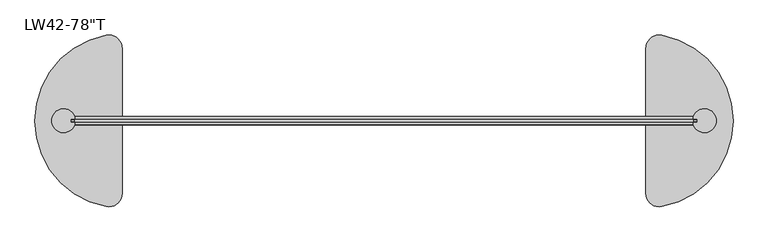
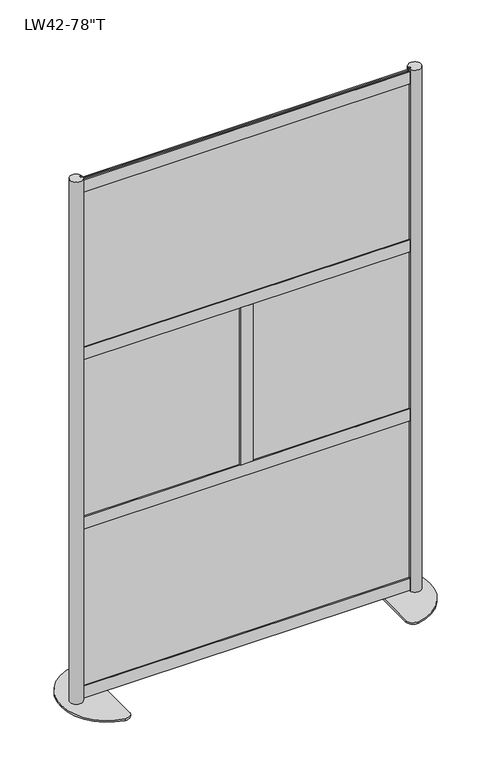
"""IFC4 building model written with IfcOpenShell, lengths in millimetres: furniture geometry."""

from ifc_helpers import new_model, si_unit, point, frame, frame_2d, origin, origin_with_axes, place, context, project, spatial, polyline, circle_curve, trimmed, segment, composite_curve, outline, extrude, source, transform, mapped, element, save


def furniture_009af1f4(model_context):
    return source(origin(), model_context, "Body", "SweptSolid", [
        extrude(outline(polyline([(594.51875, -1.5875), (-594.51875, -1.5875), (-594.51875, 1.5875), (594.51875, 1.5875), (594.51875, -1.5875)])), frame((0.0, 0.0, 1324.2670292), z_axis=(0.0, 0.0, 1.0), x_axis=(1.0, 0.0, 0.0)), (0.0, 0.0, 1.0), 608.965),
        extrude(outline(polyline([(594.51875, -1.5875), (-594.51875, -1.5875), (-594.51875, 1.5875), (594.51875, 1.5875), (594.51875, -1.5875)])), frame((0.0, 0.0, 49.2633), z_axis=(0.0, 0.0, 1.0), x_axis=(1.0, 0.0, 0.0)), (0.0, 0.0, 1.0), 608.965),
        extrude(outline(polyline([(592.9137189, 1.5875), (592.9138926, -1.5875), (15.0638917, -1.5875), (15.063718, 1.5875), (592.9137189, 1.5875)])), frame((0.0, 0.0, 689.2671), z_axis=(0.0, 0.0, 1.0), x_axis=(1.0, 0.0, 0.0)), (0.0, 0.0, 1.0), 608.965),
        extrude(outline(polyline([(-592.9137189, 1.5875), (-15.063718, 1.5875), (-15.0638917, -1.5875), (-592.9138926, -1.5875), (-592.9137189, 1.5875)])), frame((0.0, 0.0, 689.2671), z_axis=(0.0, 0.0, 1.0), x_axis=(1.0, 0.0, 0.0)), (0.0, 0.0, 1.0), 608.965),
        extrude(outline(polyline([(-22.6314, 3.556), (-22.6314, 7.6327), (22.6314, 7.6327), (22.6314, 3.556), (15.5194, 3.556), (15.5194, -3.556), (22.6314, -3.556), (22.6314, -7.6327), (-22.6314, -7.6327), (-22.6314, -3.556), (-15.5194, -3.556), (-15.5194, 3.556), (-22.6314, 3.556)])), frame((0.0, 0.0, 696.3791), z_axis=(0.0, 0.0, 1.0), x_axis=(1.0, 0.0, 0.0)), (0.0, 0.0, 1.0), 594.741),
        extrude(outline(polyline([(3.556, 651.1163), (3.556, 658.2283), (-3.556, 658.2283), (-3.556, 651.1163), (-7.6327, 651.1163), (-7.6327, 696.3791), (-3.556, 696.3791), (-3.556, 689.2671), (3.556, 689.2671), (3.556, 696.3791), (7.6327, 696.3791), (7.6327, 651.1163), (3.556, 651.1163)])), frame((-584.9874, 0.0, 0.0), z_axis=(1.0, 0.0, 0.0), x_axis=(0.0, 1.0, 0.0)), (0.0, 0.0, 1.0), 1169.9748),
        extrude(outline(polyline([(3.556, 1291.1201), (3.556, 1298.2321), (-3.556, 1298.2321), (-3.556, 1291.1201), (-7.6327, 1291.1201), (-7.6327, 1336.3829), (-3.556, 1336.3829), (-3.556, 1329.2709), (3.556, 1329.2709), (3.556, 1336.3829), (7.6327, 1336.3829), (7.6327, 1291.1201), (3.556, 1291.1201)])), frame((-584.9874, 0.0, 0.0), z_axis=(1.0, 0.0, 0.0), x_axis=(0.0, 1.0, 0.0)), (0.0, 0.0, 1.0), 1169.9748),
        extrude(outline(polyline([(3.556, 11.1125), (3.556, 18.2245), (-3.556, 18.2245), (-3.556, 11.1125), (-7.6327, 11.1125), (-7.6327, 56.3753), (-3.556, 56.3753), (-3.556, 49.2633), (3.556, 49.2633), (3.556, 56.3753), (7.6327, 56.3753), (7.6327, 11.1125), (3.556, 11.1125)])), frame((-585.0636, 0.0, 0.0), z_axis=(1.0, 0.0, 0.0), x_axis=(0.0, 1.0, 0.0)), (0.0, 0.0, 1.0), 1170.1272),
        extrude(outline(polyline([(3.556, 1926.1200292), (3.556, 1933.2320292), (-3.556, 1933.2320292), (-3.556, 1926.1200292), (-7.6327, 1926.1200292), (-7.6327, 1971.3828292), (-3.556, 1971.3828292), (-3.556, 1964.2708292), (3.556, 1964.2708292), (3.556, 1971.3828292), (7.6327, 1971.3828292), (7.6327, 1926.1200292), (3.556, 1926.1200292)])), frame((-585.0636, 0.0, 0.0), z_axis=(1.0, 0.0, 0.0), x_axis=(0.0, 1.0, 0.0)), (0.0, 0.0, 1.0), 1170.1272),
        extrude(outline(composite_curve([segment(polyline([(585.0636, -7.7568093), (585.0636, -3.556), (592.1756, -3.556), (592.1756, 3.556), (585.0636, 3.556), (585.0636, 7.7568093)]), True, "CONTINUOUS"), segment(trimmed(circle_curve(frame_2d((606.1665837, 0.0)), 22.4834163), [point((585.0636, 7.7568093))], [point((585.0636, -7.7568093))], False, "CARTESIAN"), True, "CONTINUOUS")], self_intersect=False)), frame((0.0, 0.0, 6.35), z_axis=(0.0, 0.0, 1.0), x_axis=(1.0, 0.0, 0.0)), (0.0, 0.0, 1.0), 1974.85),
        extrude(outline(composite_curve([segment(polyline([(495.3, -137.3715036), (495.3, 137.3715036)]), True, "CONTINUOUS"), segment(trimmed(circle_curve(frame_2d((520.7, 137.3715036)), 25.4), [point((495.3, 137.3715036))], [point((525.3181818, 162.3481406))], False, "CARTESIAN"), True, "CONTINUOUS"), segment(trimmed(circle_curve(frame_2d((495.3, 0.0)), 165.1), [point((525.3181818, 162.3481406))], [point((660.4, 0.0))], False, "CARTESIAN"), True, "CONTINUOUS"), segment(trimmed(circle_curve(frame_2d((495.3, 0.0)), 165.1), [point((660.4, 0.0))], [point((525.3181818, -162.3481406))], False, "CARTESIAN"), True, "CONTINUOUS"), segment(trimmed(circle_curve(frame_2d((520.7, -137.3715036)), 25.4), [point((525.3181818, -162.3481406))], [point((495.3, -137.3715036))], False, "CARTESIAN"), True, "CONTINUOUS")], self_intersect=False)), origin_with_axes(), (0.0, 0.0, 1.0), 6.35),
        extrude(outline(composite_curve([segment(trimmed(circle_curve(frame_2d((-606.1665837, 0.0)), 22.4834163), [point((-585.0636, -7.7568093))], [point((-585.0636, 7.7568093))], False, "CARTESIAN"), True, "CONTINUOUS"), segment(polyline([(-585.0636, 7.7568093), (-585.0636, 3.556), (-592.1756, 3.556), (-592.1756, -3.556), (-585.0636, -3.556), (-585.0636, -7.7568093)]), True, "CONTINUOUS")], self_intersect=False)), frame((0.0, 0.0, 6.35), z_axis=(0.0, 0.0, 1.0), x_axis=(1.0, 0.0, 0.0)), (0.0, 0.0, 1.0), 1974.85),
        extrude(outline(composite_curve([segment(trimmed(circle_curve(frame_2d((-520.7, -137.3715036)), 25.4), [point((-495.3, -137.3715036))], [point((-525.3181818, -162.3481406))], False, "CARTESIAN"), True, "CONTINUOUS"), segment(trimmed(circle_curve(frame_2d((-495.3, 0.0)), 165.1), [point((-525.3181818, -162.3481406))], [point((-660.4, 0.0))], False, "CARTESIAN"), True, "CONTINUOUS"), segment(trimmed(circle_curve(frame_2d((-495.3, 0.0)), 165.1), [point((-660.4, 0.0))], [point((-525.3181818, 162.3481406))], False, "CARTESIAN"), True, "CONTINUOUS"), segment(trimmed(circle_curve(frame_2d((-520.7, 137.3715036)), 25.4), [point((-525.3181818, 162.3481406))], [point((-495.3, 137.3715036))], False, "CARTESIAN"), True, "CONTINUOUS"), segment(polyline([(-495.3, 137.3715036), (-495.3, -137.3715036)]), True, "CONTINUOUS")], self_intersect=False)), origin_with_axes(), (0.0, 0.0, 1.0), 6.35),
    ])


if __name__ == "__main__":
    model = new_model("IFC4")
    model_context = context("Model", 3, world=origin())
    ifc_project = project(units=[si_unit("LENGTHUNIT", "METRE", prefix="MILLI")], contexts=[model_context])
    site = spatial("IfcSite", under=ifc_project)
    building = spatial("IfcBuilding", under=site)
    placement = place(None, origin())
    furniture_shape = furniture_009af1f4(model_context)
    element("IfcFurniture", 1, ObjectType="Loft_Wall-Framewall-52 : LW42-78\"T", at=placement, inside=building, context=model_context, shape_type="MappedRepresentation", body=[
        mapped(furniture_shape, transform((0.0, 0.0, 0.0), x_axis=(1.0, 0.0, 0.0), y_axis=(0.0, 1.0, 0.0), z_axis=(0.0, 0.0, 1.0))),
    ])
    save(model, "model.ifc")
